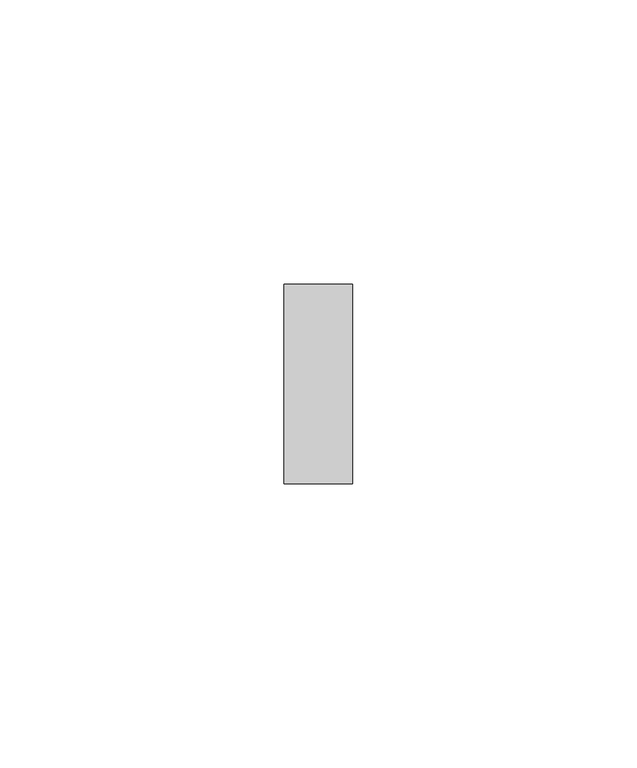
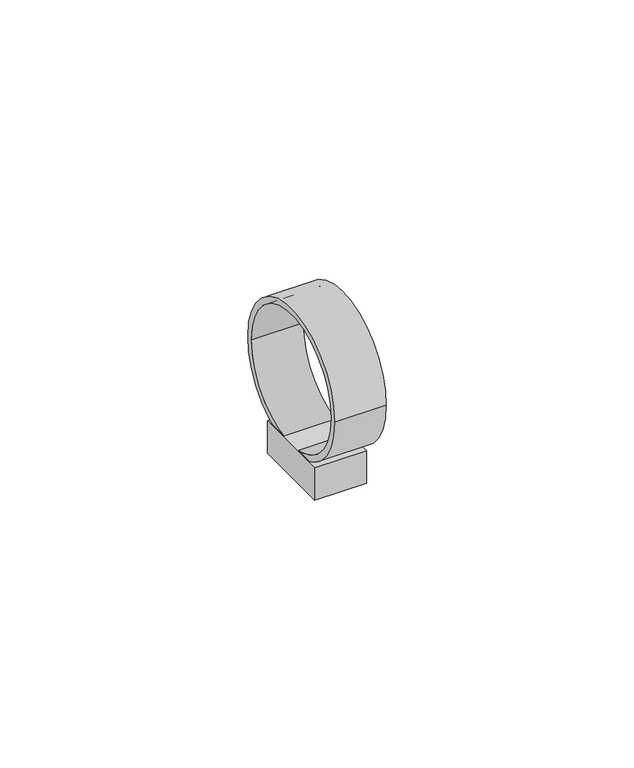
"""IFC4 building model written with IfcOpenShell, lengths in millimetres: cable carrier fitting geometry, Крепеж-клипса_для_труб_с_фиксатором : Крепеж-клипса для трубы D32мм с фиксатором."""

import ifcopenshell
import ifcopenshell.guid

model = None  # the IFC model being written
_history = None  # IfcOwnerHistory: only IFC2X3 demands one
_inside = {}  # id of a spatial element -> (the spatial element, [elements in it])
_under = {}  # id of a project, library or spatial element -> (it, [spatial elements below it])
_declared = {}  # id of a project -> (the project, [libraries it declares])
_typed = {}  # id of a type object -> (the type object, [elements of that type])
_made_of = {}  # id of a material, layer set ... -> (it, [elements and type objects made of it])


def new_model(schema):
    """Start an empty IFC model of exactly this schema.

    Asked for "IFC4X3", IfcOpenShell would pick the latest addendum, in which some entities
    have other attributes; the version numbers below select the first issue.
    IFC2X3 requires an IfcOwnerHistory on every rooted entity: one is made here for all.
    """
    global model, _history
    if schema == "IFC4X3":
        model = ifcopenshell.file(schema_version=(4, 3, 0, 0))
    else:
        model = ifcopenshell.file(schema=schema)
    _inside.clear()
    _under.clear()
    _declared.clear()
    _typed.clear()
    _made_of.clear()
    _history = None
    if model.schema == "IFC2X3":
        org = make("IfcOrganization", Name="unknown")
        user = make(
            "IfcPersonAndOrganization",
            ThePerson=make("IfcPerson", FamilyName="unknown"),
            TheOrganization=org,
        )
        app = make(
            "IfcApplication",
            ApplicationDeveloper=org,
            Version="unknown",
            ApplicationFullName="unknown",
            ApplicationIdentifier="unknown",
        )
        _history = make(
            "IfcOwnerHistory",
            OwningUser=user,
            OwningApplication=app,
            ChangeAction="ADDED",
            CreationDate=0,
        )
    return model


def make(cls, **values):
    """One entity of the class cls with the attributes given. An attribute that is None is left unset."""
    return model.create_entity(
        cls, **{name: value for name, value in values.items() if value is not None}
    )


def rooted(cls, **values):
    """An entity with a GlobalId (a new one), such as an element, a storey or a relation."""
    return make(cls, GlobalId=ifcopenshell.guid.new(), OwnerHistory=_history, **values)


def si_unit(unit_type, name, prefix=None):
    """IfcSIUnit, for example si_unit("LENGTHUNIT", "METRE", prefix="MILLI")."""
    return make("IfcSIUnit", UnitType=unit_type, Prefix=prefix, Name=name)


def assignment(units):
    """IfcUnitAssignment: the units of a project."""
    return None if units is None else make("IfcUnitAssignment", Units=units)


def point(xyz):
    """IfcCartesianPoint."""
    return None if xyz is None else make("IfcCartesianPoint", Coordinates=xyz)


def direction(xyz):
    """IfcDirection."""
    return None if xyz is None else make("IfcDirection", DirectionRatios=xyz)


def frame(location, z_axis=None, x_axis=None):
    """IfcAxis2Placement3D, a coordinate frame: its origin and axes. An axis left out is left unset."""
    return make(
        "IfcAxis2Placement3D",
        Location=point(location),
        Axis=direction(z_axis),
        RefDirection=direction(x_axis),
    )


def frame_2d(location, x_axis=None):
    """IfcAxis2Placement2D, a coordinate frame in the plane: its origin and x axis."""
    return make(
        "IfcAxis2Placement2D", Location=point(location), RefDirection=direction(x_axis)
    )


def origin():
    """The frame at (0, 0, 0) with its axes left unset."""
    return frame((0.0, 0.0, 0.0))


def origin_2d():
    """The frame at (0, 0) in the plane with its x axis left unset."""
    return frame_2d((0.0, 0.0))


def place(relative_to, where):
    """IfcLocalPlacement: puts the frame where relative to a parent placement (None: the world)."""
    return make(
        "IfcLocalPlacement", PlacementRelTo=relative_to, RelativePlacement=where
    )


def context(
    kind, dimensions, precision=None, world=None, true_north=None, identifier=None
):
    """IfcGeometricRepresentationContext, for example the 3D "Model" context."""
    return make(
        "IfcGeometricRepresentationContext",
        ContextIdentifier=identifier,
        ContextType=kind,
        CoordinateSpaceDimension=dimensions,
        Precision=precision,
        WorldCoordinateSystem=world,
        TrueNorth=true_north,
    )


def project(units=None, contexts=None):
    """IfcProject with its units and contexts."""
    return rooted(
        "IfcProject",
        Name="project",
        RepresentationContexts=contexts,
        UnitsInContext=assignment(units),
    )


def spatial(cls, under=None, at=None, **own):
    """A site, building, storey or space (cls), placed at a placement, below another one or the project."""
    s = rooted(cls, ObjectPlacement=at, **own)
    if under is not None:
        _under.setdefault(under.id(), (under, []))[1].append(s)
    return s


def polyline(points):
    """IfcPolyline through the points."""
    return make("IfcPolyline", Points=[point(p) for p in points])


def circle_curve(where, radius):
    """IfcCircle in the frame where."""
    return make("IfcCircle", Position=where, Radius=radius)


def trimmed(basis, trim1, trim2, sense, master):
    """IfcTrimmedCurve: the piece of a basis curve between two trims."""
    return make(
        "IfcTrimmedCurve",
        BasisCurve=basis,
        Trim1=trim1,
        Trim2=trim2,
        SenseAgreement=sense,
        MasterRepresentation=master,
    )


def segment(curve, same_sense, transition):
    """IfcCompositeCurveSegment."""
    return make(
        "IfcCompositeCurveSegment",
        Transition=transition,
        SameSense=same_sense,
        ParentCurve=curve,
    )


def composite_curve(segments, self_intersect=None):
    """IfcCompositeCurve: segments joined end to end."""
    return make("IfcCompositeCurve", Segments=segments, SelfIntersect=self_intersect)


def outline(outer, holes=None, kind="AREA"):
    """IfcArbitraryClosedProfileDef: a profile drawn as a closed curve; with holes, ...WithVoids."""
    if holes is None:
        return make("IfcArbitraryClosedProfileDef", ProfileType=kind, OuterCurve=outer)
    return make(
        "IfcArbitraryProfileDefWithVoids",
        ProfileType=kind,
        OuterCurve=outer,
        InnerCurves=holes,
    )


def extrude(swept, where, along, depth):
    """IfcExtrudedAreaSolid: the profile swept, set in the frame where, extruded along a direction by depth."""
    return make(
        "IfcExtrudedAreaSolid",
        SweptArea=swept,
        Position=where,
        ExtrudedDirection=direction(along),
        Depth=depth,
    )


def shape(context_of_items, identifier, shape_type, items):
    """IfcShapeRepresentation: the items that make up one representation, for example the "Body"."""
    return make(
        "IfcShapeRepresentation",
        ContextOfItems=context_of_items,
        RepresentationIdentifier=identifier,
        RepresentationType=shape_type,
        Items=items,
    )


def source(mapping_origin, context_of_items, identifier, shape_type, items):
    """IfcRepresentationMap: a shape defined once, which mapped items show again and again."""
    return make(
        "IfcRepresentationMap",
        MappingOrigin=mapping_origin,
        MappedRepresentation=shape(context_of_items, identifier, shape_type, items),
    )


def transform(
    local_origin,
    x_axis=None,
    y_axis=None,
    z_axis=None,
    scale=None,
    scale2=None,
    scale3=None,
    uniform=True,
):
    """IfcCartesianTransformationOperator3D, or its non-uniform kind. x_axis, y_axis, z_axis: its Axis1, 2, 3."""
    if uniform:
        return make(
            "IfcCartesianTransformationOperator3D",
            Axis1=direction(x_axis),
            Axis2=direction(y_axis),
            LocalOrigin=point(local_origin),
            Scale=scale,
            Axis3=direction(z_axis),
        )
    return make(
        "IfcCartesianTransformationOperator3DnonUniform",
        Axis1=direction(x_axis),
        Axis2=direction(y_axis),
        LocalOrigin=point(local_origin),
        Scale=scale,
        Axis3=direction(z_axis),
        Scale2=scale2,
        Scale3=scale3,
    )


def mapped(mapping_source, mapping_target):
    """IfcMappedItem: shows the shape of a source again, moved by a transform."""
    return make(
        "IfcMappedItem", MappingSource=mapping_source, MappingTarget=mapping_target
    )


def made_of(thing, what):
    """Note that an element or type object is made of a material, layer set ...; save() writes the relation."""
    if what is not None:
        _made_of.setdefault(what.id(), (what, []))[1].append(thing)
    return thing


def element(
    cls,
    number,
    at=None,
    inside=None,
    cuts=None,
    type_object=None,
    material=None,
    context=None,
    identifier="Body",
    shape_type=None,
    held_by="IfcProductDefinitionShape",
    body=None,
    shapes=None,
    **own,
):
    """One element of the class cls, such as IfcWall. Its Tag is "e" and its number.

    at: its placement. inside: the storey or other place that contains it. cuts: it is an
    opening in that element (IfcRelVoidsElement). A single representation is given by context,
    identifier, shape_type and body (its items); several are given by shapes. held_by: the class
    of the entity that holds the representations. save() writes the other relations.
    """
    e = rooted(cls, Tag="e%d" % number, ObjectPlacement=at, **own)
    if body is not None:
        shapes = [shape(context, identifier, shape_type, body)]
    if shapes is not None:
        e.Representation = make(held_by, Representations=shapes)
    if inside is not None:
        _inside.setdefault(inside.id(), (inside, []))[1].append(e)
    if cuts is not None:
        rooted(
            "IfcRelVoidsElement", RelatingBuildingElement=cuts, RelatedOpeningElement=e
        )
    if type_object is not None:
        _typed.setdefault(type_object.id(), (type_object, []))[1].append(e)
    return made_of(e, material)


def aggregate(whole, parts):
    """IfcRelAggregates: a whole, such as a stair, and the parts it consists of."""
    return rooted("IfcRelAggregates", RelatingObject=whole, RelatedObjects=parts)


def save(model, path):
    """Write the relations noted so far, then the file.

    IfcRelAggregates (storeys below a building ...), IfcRelContainedInSpatialStructure (elements
    in a storey), IfcRelDefinesByType, IfcRelAssociatesMaterial and IfcRelDeclares: one each for
    every whole, place, type object, material and project.
    """
    for whole, parts in _under.values():
        aggregate(whole, parts)
    for where, things in _inside.values():
        rooted(
            "IfcRelContainedInSpatialStructure",
            RelatedElements=things,
            RelatingStructure=where,
        )
    for kind, things in _typed.values():
        rooted("IfcRelDefinesByType", RelatedObjects=things, RelatingType=kind)
    for what, things in _made_of.values():
        rooted("IfcRelAssociatesMaterial", RelatedObjects=things, RelatingMaterial=what)
    for by, libraries in _declared.values():
        rooted("IfcRelDeclares", RelatingContext=by, RelatedDefinitions=libraries)
    model.write(path)


def cable_carrier_fitting_f1925367(model_context):
    return source(origin(), model_context, "Body", "SweptSolid", [
        extrude(outline(polyline([(6.0, 9.5), (6.0, -9.5), (-6.0, -9.5), (-6.0, 9.5), (6.0, 9.5)])), frame((0.0, 0.0, -24.0), z_axis=(0.0, 0.0, 1.0), x_axis=(1.0, 0.0, 0.0)), (0.0, 0.0, 1.0), 8.0),
        extrude(outline(composite_curve([segment(trimmed(circle_curve(origin_2d(), 17.5), [point((-17.5, 0.0))], [point((17.5, 0.0))], False, "CARTESIAN"), True, "CONTINUOUS"), segment(trimmed(circle_curve(origin_2d(), 17.5), [point((17.5, 0.0))], [point((-17.5, 0.0))], False, "CARTESIAN"), True, "CONTINUOUS")], self_intersect=False), holes=[composite_curve([segment(trimmed(circle_curve(origin_2d(), 16.0), [point((-16.0, 0.0))], [point((16.0, 0.0))], True, "CARTESIAN"), True, "CONTINUOUS"), segment(trimmed(circle_curve(origin_2d(), 16.0), [point((16.0, 0.0))], [point((-16.0, 0.0))], True, "CARTESIAN"), True, "CONTINUOUS")], self_intersect=False)]), frame((-6.0, 0.0, 0.0), z_axis=(1.0, 0.0, 0.0), x_axis=(0.0, 1.0, 0.0)), (0.0, 0.0, 1.0), 12.0),
    ])


if __name__ == "__main__":
    model = new_model("IFC4")
    model_context = context("Model", 3, world=origin())
    ifc_project = project(units=[si_unit("LENGTHUNIT", "METRE", prefix="MILLI")], contexts=[model_context])
    site = spatial("IfcSite", under=ifc_project)
    building = spatial("IfcBuilding", under=site)
    placement = place(None, origin())
    cable_carrier_fitting_shape = cable_carrier_fitting_f1925367(model_context)
    element("IfcCableCarrierFitting", 1, ObjectType="Крепеж-клипса_для_труб_с_фиксатором : Крепеж-клипса для трубы D32мм с фиксатором", at=placement, inside=building, context=model_context, shape_type="MappedRepresentation", body=[
        mapped(cable_carrier_fitting_shape, transform((0.0, 0.0, 0.0), x_axis=(1.0, 0.0, 0.0), y_axis=(0.0, 1.0, 0.0), z_axis=(0.0, 0.0, 1.0))),
    ])
    save(model, "model.ifc")
